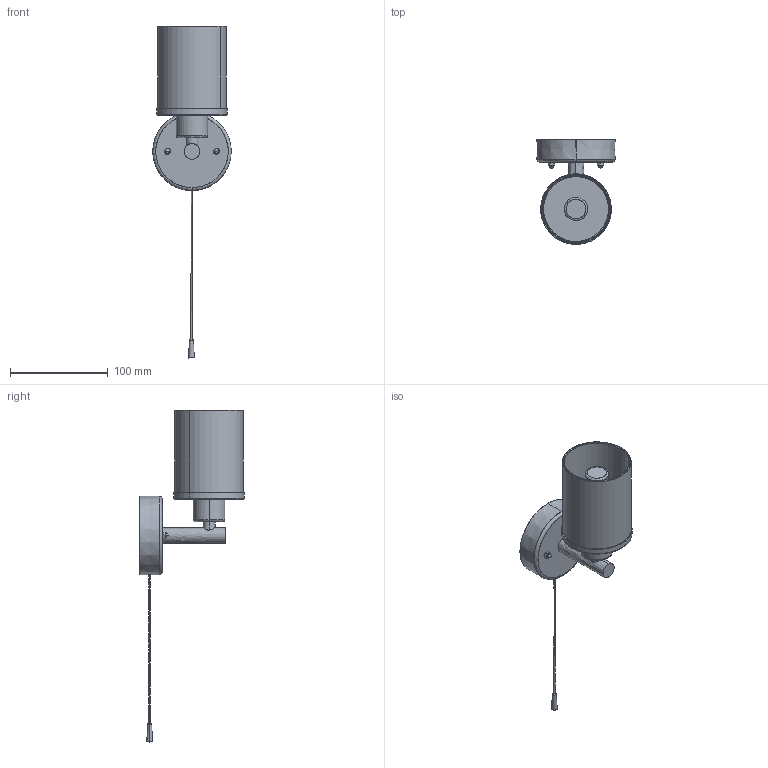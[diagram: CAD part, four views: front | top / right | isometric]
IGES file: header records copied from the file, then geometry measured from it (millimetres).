
Start section: SolidWorks IGES file using analytic representation for surfaces
Global section: file name: Z:\Modele 3D_WWW\_KOLEKCJE_WWW\VISTA\VISTA-I-8051\VISTA-I-8051.IGS; native system: SolidWorks 2021; preprocessor: SolidWorks 2021; author: gabriela.tworek; date: 210720.140506; units: millimetre
Bounding box: 80 x 106.99 x 338.9 mm (x, y, z)
Surface area: 100558.7 mm2 (no closed solid volume)
Topology: 0 solids, 0 shells, 137 faces, 3109 edges, 3107 vertices
Faces by surface type: bspline 75, revolution 62
